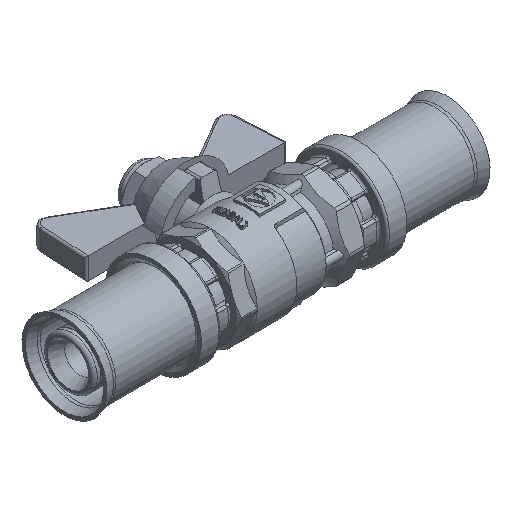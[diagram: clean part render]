
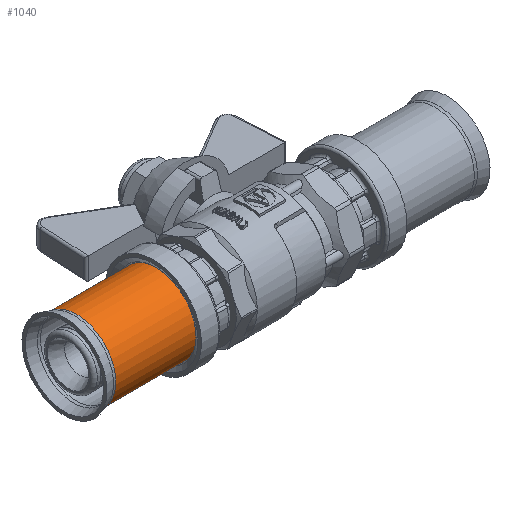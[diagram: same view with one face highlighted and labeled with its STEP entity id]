
A CAD part, isometric view. The second image highlights one B-rep face of the part: STEP entity #1040.
In plain terms, the highlighted cylindrical face has radius 8.95 mm (diameter 17.9 mm), a full revolution.
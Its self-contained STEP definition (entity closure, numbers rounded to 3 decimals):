
#1040=ADVANCED_FACE('',(#8701,#8703),#8705,.T.);
#8701=FACE_OUTER_BOUND('',#8702,.T.);
#8702=EDGE_LOOP('',(#15799));
#8703=FACE_OUTER_BOUND('',#8704,.T.);
#8704=EDGE_LOOP('',(#15800));
#8705=CYLINDRICAL_SURFACE('',#8706,8.95);
#8706=AXIS2_PLACEMENT_3D('',#8707,#8708,#8709);
#8707=CARTESIAN_POINT('',(-42.2,0.,0.));
#8708=DIRECTION('',(1.,0.,0.));
#8709=DIRECTION('',(0.,0.549,-0.836));
#15799=ORIENTED_EDGE('',*,*,#18833,.F.);
#15800=ORIENTED_EDGE('',*,*,#18839,.T.);
#18833=EDGE_CURVE('',#23378,#23378,#23379,.T.);
#18839=EDGE_CURVE('',#23390,#23390,#23391,.T.);
#23378=VERTEX_POINT('',#44338);
#23379=CIRCLE('',#44339,8.95);
#23390=VERTEX_POINT('',#44368);
#23391=CIRCLE('',#44369,8.95);
#44338=CARTESIAN_POINT('',(-22.9,4.918,-7.478));
#44339=AXIS2_PLACEMENT_3D('',#44340,#44341,#44342);
#44340=CARTESIAN_POINT('',(-22.9,0.,0.));
#44341=DIRECTION('',(1.,0.,0.));
#44342=DIRECTION('',(0.,0.549,-0.836));
#44368=CARTESIAN_POINT('',(-41.888,4.918,-7.478));
#44369=AXIS2_PLACEMENT_3D('',#44370,#44371,#44372);
#44370=CARTESIAN_POINT('',(-41.888,0.,0.));
#44371=DIRECTION('',(1.,0.,0.));
#44372=DIRECTION('',(0.,0.549,-0.836));
